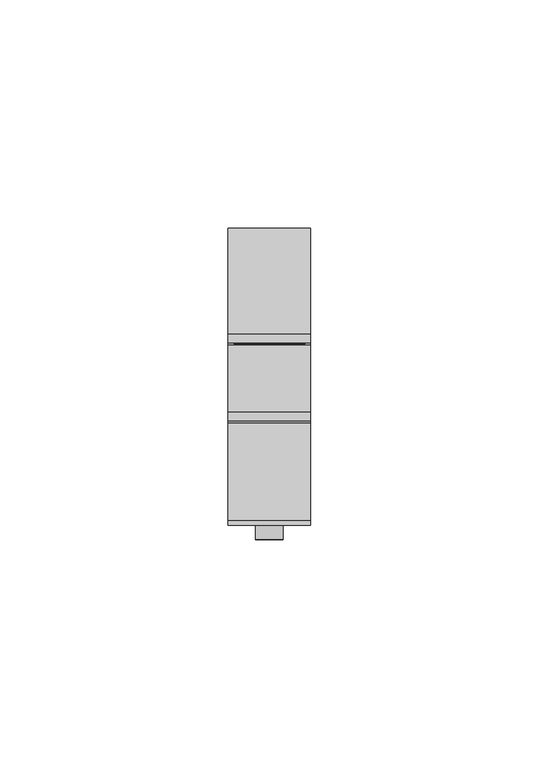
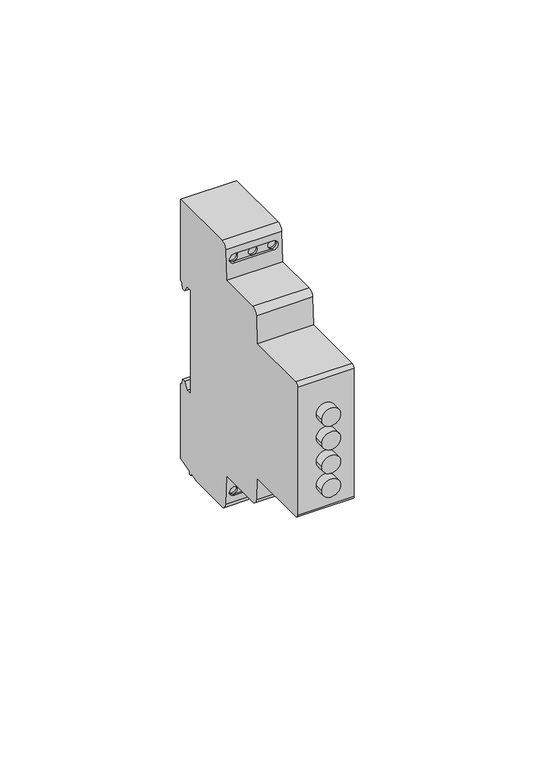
"""IFC4 building model written with IfcOpenShell, lengths in millimetres: proxy geometry, TDM_РЕЛЕ ВРЕМЕНИ НА DIN-РЕЙКУ СЕРИИ РВЦ : РВЦ 0.1с/100дн 8А 230 AC."""

import ifcopenshell
import ifcopenshell.guid

model = None  # the IFC model being written
_history = None  # IfcOwnerHistory: only IFC2X3 demands one
_inside = {}  # id of a spatial element -> (the spatial element, [elements in it])
_under = {}  # id of a project, library or spatial element -> (it, [spatial elements below it])
_declared = {}  # id of a project -> (the project, [libraries it declares])
_typed = {}  # id of a type object -> (the type object, [elements of that type])
_made_of = {}  # id of a material, layer set ... -> (it, [elements and type objects made of it])


def new_model(schema):
    """Start an empty IFC model of exactly this schema.

    Asked for "IFC4X3", IfcOpenShell would pick the latest addendum, in which some entities
    have other attributes; the version numbers below select the first issue.
    IFC2X3 requires an IfcOwnerHistory on every rooted entity: one is made here for all.
    """
    global model, _history
    if schema == "IFC4X3":
        model = ifcopenshell.file(schema_version=(4, 3, 0, 0))
    else:
        model = ifcopenshell.file(schema=schema)
    _inside.clear()
    _under.clear()
    _declared.clear()
    _typed.clear()
    _made_of.clear()
    _history = None
    if model.schema == "IFC2X3":
        org = make("IfcOrganization", Name="unknown")
        user = make(
            "IfcPersonAndOrganization",
            ThePerson=make("IfcPerson", FamilyName="unknown"),
            TheOrganization=org,
        )
        app = make(
            "IfcApplication",
            ApplicationDeveloper=org,
            Version="unknown",
            ApplicationFullName="unknown",
            ApplicationIdentifier="unknown",
        )
        _history = make(
            "IfcOwnerHistory",
            OwningUser=user,
            OwningApplication=app,
            ChangeAction="ADDED",
            CreationDate=0,
        )
    return model


def make(cls, **values):
    """One entity of the class cls with the attributes given. An attribute that is None is left unset."""
    return model.create_entity(
        cls, **{name: value for name, value in values.items() if value is not None}
    )


def rooted(cls, **values):
    """An entity with a GlobalId (a new one), such as an element, a storey or a relation."""
    return make(cls, GlobalId=ifcopenshell.guid.new(), OwnerHistory=_history, **values)


def si_unit(unit_type, name, prefix=None):
    """IfcSIUnit, for example si_unit("LENGTHUNIT", "METRE", prefix="MILLI")."""
    return make("IfcSIUnit", UnitType=unit_type, Prefix=prefix, Name=name)


def assignment(units):
    """IfcUnitAssignment: the units of a project."""
    return None if units is None else make("IfcUnitAssignment", Units=units)


def point(xyz):
    """IfcCartesianPoint."""
    return None if xyz is None else make("IfcCartesianPoint", Coordinates=xyz)


def direction(xyz):
    """IfcDirection."""
    return None if xyz is None else make("IfcDirection", DirectionRatios=xyz)


def frame(location, z_axis=None, x_axis=None):
    """IfcAxis2Placement3D, a coordinate frame: its origin and axes. An axis left out is left unset."""
    return make(
        "IfcAxis2Placement3D",
        Location=point(location),
        Axis=direction(z_axis),
        RefDirection=direction(x_axis),
    )


def frame_2d(location, x_axis=None):
    """IfcAxis2Placement2D, a coordinate frame in the plane: its origin and x axis."""
    return make(
        "IfcAxis2Placement2D", Location=point(location), RefDirection=direction(x_axis)
    )


def origin():
    """The frame at (0, 0, 0) with its axes left unset."""
    return frame((0.0, 0.0, 0.0))


def place(relative_to, where):
    """IfcLocalPlacement: puts the frame where relative to a parent placement (None: the world)."""
    return make(
        "IfcLocalPlacement", PlacementRelTo=relative_to, RelativePlacement=where
    )


def context(
    kind, dimensions, precision=None, world=None, true_north=None, identifier=None
):
    """IfcGeometricRepresentationContext, for example the 3D "Model" context."""
    return make(
        "IfcGeometricRepresentationContext",
        ContextIdentifier=identifier,
        ContextType=kind,
        CoordinateSpaceDimension=dimensions,
        Precision=precision,
        WorldCoordinateSystem=world,
        TrueNorth=true_north,
    )


def project(units=None, contexts=None):
    """IfcProject with its units and contexts."""
    return rooted(
        "IfcProject",
        Name="project",
        RepresentationContexts=contexts,
        UnitsInContext=assignment(units),
    )


def spatial(cls, under=None, at=None, **own):
    """A site, building, storey or space (cls), placed at a placement, below another one or the project."""
    s = rooted(cls, ObjectPlacement=at, **own)
    if under is not None:
        _under.setdefault(under.id(), (under, []))[1].append(s)
    return s


def polyline(points):
    """IfcPolyline through the points."""
    return make("IfcPolyline", Points=[point(p) for p in points])


def circle_curve(where, radius):
    """IfcCircle in the frame where."""
    return make("IfcCircle", Position=where, Radius=radius)


def ellipse_curve(where, semi_axis1, semi_axis2):
    """IfcEllipse in the frame where."""
    return make(
        "IfcEllipse", Position=where, SemiAxis1=semi_axis1, SemiAxis2=semi_axis2
    )


def trimmed(basis, trim1, trim2, sense, master):
    """IfcTrimmedCurve: the piece of a basis curve between two trims."""
    return make(
        "IfcTrimmedCurve",
        BasisCurve=basis,
        Trim1=trim1,
        Trim2=trim2,
        SenseAgreement=sense,
        MasterRepresentation=master,
    )


def segment(curve, same_sense, transition):
    """IfcCompositeCurveSegment."""
    return make(
        "IfcCompositeCurveSegment",
        Transition=transition,
        SameSense=same_sense,
        ParentCurve=curve,
    )


def composite_curve(segments, self_intersect=None):
    """IfcCompositeCurve: segments joined end to end."""
    return make("IfcCompositeCurve", Segments=segments, SelfIntersect=self_intersect)


def outline(outer, holes=None, kind="AREA"):
    """IfcArbitraryClosedProfileDef: a profile drawn as a closed curve; with holes, ...WithVoids."""
    if holes is None:
        return make("IfcArbitraryClosedProfileDef", ProfileType=kind, OuterCurve=outer)
    return make(
        "IfcArbitraryProfileDefWithVoids",
        ProfileType=kind,
        OuterCurve=outer,
        InnerCurves=holes,
    )


def extrude(swept, where, along, depth):
    """IfcExtrudedAreaSolid: the profile swept, set in the frame where, extruded along a direction by depth."""
    return make(
        "IfcExtrudedAreaSolid",
        SweptArea=swept,
        Position=where,
        ExtrudedDirection=direction(along),
        Depth=depth,
    )


def shape(context_of_items, identifier, shape_type, items):
    """IfcShapeRepresentation: the items that make up one representation, for example the "Body"."""
    return make(
        "IfcShapeRepresentation",
        ContextOfItems=context_of_items,
        RepresentationIdentifier=identifier,
        RepresentationType=shape_type,
        Items=items,
    )


def source(mapping_origin, context_of_items, identifier, shape_type, items):
    """IfcRepresentationMap: a shape defined once, which mapped items show again and again."""
    return make(
        "IfcRepresentationMap",
        MappingOrigin=mapping_origin,
        MappedRepresentation=shape(context_of_items, identifier, shape_type, items),
    )


def transform(
    local_origin,
    x_axis=None,
    y_axis=None,
    z_axis=None,
    scale=None,
    scale2=None,
    scale3=None,
    uniform=True,
):
    """IfcCartesianTransformationOperator3D, or its non-uniform kind. x_axis, y_axis, z_axis: its Axis1, 2, 3."""
    if uniform:
        return make(
            "IfcCartesianTransformationOperator3D",
            Axis1=direction(x_axis),
            Axis2=direction(y_axis),
            LocalOrigin=point(local_origin),
            Scale=scale,
            Axis3=direction(z_axis),
        )
    return make(
        "IfcCartesianTransformationOperator3DnonUniform",
        Axis1=direction(x_axis),
        Axis2=direction(y_axis),
        LocalOrigin=point(local_origin),
        Scale=scale,
        Axis3=direction(z_axis),
        Scale2=scale2,
        Scale3=scale3,
    )


def mapped(mapping_source, mapping_target):
    """IfcMappedItem: shows the shape of a source again, moved by a transform."""
    return make(
        "IfcMappedItem", MappingSource=mapping_source, MappingTarget=mapping_target
    )


def made_of(thing, what):
    """Note that an element or type object is made of a material, layer set ...; save() writes the relation."""
    if what is not None:
        _made_of.setdefault(what.id(), (what, []))[1].append(thing)
    return thing


def element(
    cls,
    number,
    at=None,
    inside=None,
    cuts=None,
    type_object=None,
    material=None,
    context=None,
    identifier="Body",
    shape_type=None,
    held_by="IfcProductDefinitionShape",
    body=None,
    shapes=None,
    **own,
):
    """One element of the class cls, such as IfcWall. Its Tag is "e" and its number.

    at: its placement. inside: the storey or other place that contains it. cuts: it is an
    opening in that element (IfcRelVoidsElement). A single representation is given by context,
    identifier, shape_type and body (its items); several are given by shapes. held_by: the class
    of the entity that holds the representations. save() writes the other relations.
    """
    e = rooted(cls, Tag="e%d" % number, ObjectPlacement=at, **own)
    if body is not None:
        shapes = [shape(context, identifier, shape_type, body)]
    if shapes is not None:
        e.Representation = make(held_by, Representations=shapes)
    if inside is not None:
        _inside.setdefault(inside.id(), (inside, []))[1].append(e)
    if cuts is not None:
        rooted(
            "IfcRelVoidsElement", RelatingBuildingElement=cuts, RelatedOpeningElement=e
        )
    if type_object is not None:
        _typed.setdefault(type_object.id(), (type_object, []))[1].append(e)
    return made_of(e, material)


def aggregate(whole, parts):
    """IfcRelAggregates: a whole, such as a stair, and the parts it consists of."""
    return rooted("IfcRelAggregates", RelatingObject=whole, RelatedObjects=parts)


def save(model, path):
    """Write the relations noted so far, then the file.

    IfcRelAggregates (storeys below a building ...), IfcRelContainedInSpatialStructure (elements
    in a storey), IfcRelDefinesByType, IfcRelAssociatesMaterial and IfcRelDeclares: one each for
    every whole, place, type object, material and project.
    """
    for whole, parts in _under.values():
        aggregate(whole, parts)
    for where, things in _inside.values():
        rooted(
            "IfcRelContainedInSpatialStructure",
            RelatedElements=things,
            RelatingStructure=where,
        )
    for kind, things in _typed.values():
        rooted("IfcRelDefinesByType", RelatedObjects=things, RelatingType=kind)
    for what, things in _made_of.values():
        rooted("IfcRelAssociatesMaterial", RelatedObjects=things, RelatingMaterial=what)
    for by, libraries in _declared.values():
        rooted("IfcRelDeclares", RelatingContext=by, RelatedDefinitions=libraries)
    model.write(path)


def plane_surface(at):
    """IfcPlane: the flat surface through the origin of the frame at, square to its z axis."""
    return make("IfcPlane", Position=at)


def cylinder_surface(at, radius):
    """IfcCylindricalSurface: all points at the distance radius from the z axis of the frame at."""
    return make("IfcCylindricalSurface", Position=at, Radius=radius)


def revolved_surface(curve, axis_point, axis_direction):
    """IfcSurfaceOfRevolution: the curve turned about the line through axis_point along axis_direction."""
    return make(
        "IfcSurfaceOfRevolution",
        SweptCurve=make("IfcArbitraryOpenProfileDef", ProfileType="CURVE", Curve=curve),
        AxisPosition=make("IfcAxis1Placement", Location=point(axis_point), Axis=direction(axis_direction)),
    )


def advanced_brep(points, edges, surfaces, faces):
    """IfcAdvancedBrep: a solid bounded by faces that lie on surfaces and meet in shared edges.

    An edge is (start, end): straight between two places in points (the first is 0);
    or (start, end, curve); or (start, end, curve, False) where it runs against its curve.
    A face is (place in surfaces, loops), or (place, loops, False) where it looks against
    its surface's normal. A loop lists edges by number (the first is 1), with a minus sign
    where the edge is run from its end to its start. The first loop is the outer one.
    """
    corners = [point(p) for p in points]
    vertices = [make("IfcVertexPoint", VertexGeometry=c) for c in corners]
    made = []
    for start, end, *more in edges:
        made.append(
            make(
                "IfcEdgeCurve",
                EdgeStart=vertices[start],
                EdgeEnd=vertices[end],
                EdgeGeometry=more[0] if more else make("IfcPolyline", Points=[corners[start], corners[end]]),
                SameSense=more[1] if len(more) > 1 else True,
            )
        )
    hull = []
    for where, loops, *sense in faces:
        bounds = []
        for j, loop in enumerate(loops):
            ring = [make("IfcOrientedEdge", EdgeElement=made[abs(k) - 1], Orientation=k > 0) for k in loop]
            bounds.append(
                make(
                    "IfcFaceOuterBound" if j == 0 else "IfcFaceBound",
                    Bound=make("IfcEdgeLoop", EdgeList=ring),
                    Orientation=True,
                )
            )
        hull.append(make("IfcAdvancedFace", Bounds=bounds, FaceSurface=surfaces[where], SameSense=sense[0] if sense else True))
    return make("IfcAdvancedBrep", Outer=make("IfcClosedShell", CfsFaces=hull))


def electrical_equipment_bfa7a710(model_context):
    return source(origin(), model_context, "Body", "SolidModel", [
        extrude(outline(composite_curve([segment(trimmed(circle_curve(frame_2d((9.4993959, 0.0)), 3.0), [point((9.4993959, -3.0))], [point((9.4993959, 3.0))], False, "CARTESIAN"), True, "CONTINUOUS"), segment(trimmed(circle_curve(frame_2d((9.4993959, 0.0)), 3.0), [point((9.4993959, 3.0))], [point((9.4993959, -3.0))], False, "CARTESIAN"), True, "CONTINUOUS")], self_intersect=False)), frame((0.0, -30.5593993, 0.0), z_axis=(0.0, 1.0, 0.0), x_axis=(0.0, 0.0, 1.0)), (0.0, 0.0, 1.0), 3.0593993),
        extrude(outline(composite_curve([segment(trimmed(circle_curve(frame_2d((1.4993959, 0.0)), 3.0), [point((1.4993959, -3.0))], [point((1.4993959, 3.0))], False, "CARTESIAN"), True, "CONTINUOUS"), segment(trimmed(circle_curve(frame_2d((1.4993959, 0.0)), 3.0), [point((1.4993959, 3.0))], [point((1.4993959, -3.0))], False, "CARTESIAN"), True, "CONTINUOUS")], self_intersect=False)), frame((0.0, -30.5593993, 0.0), z_axis=(0.0, 1.0, 0.0), x_axis=(0.0, 0.0, 1.0)), (0.0, 0.0, 1.0), 3.0593993),
        extrude(outline(composite_curve([segment(trimmed(circle_curve(frame_2d((-6.5006041, 0.0)), 3.0), [point((-6.5006041, -3.0))], [point((-6.5006041, 3.0))], False, "CARTESIAN"), True, "CONTINUOUS"), segment(trimmed(circle_curve(frame_2d((-6.5006041, 0.0)), 3.0), [point((-6.5006041, 3.0))], [point((-6.5006041, -3.0))], False, "CARTESIAN"), True, "CONTINUOUS")], self_intersect=False)), frame((0.0, -30.5593993, 0.0), z_axis=(0.0, 1.0, 0.0), x_axis=(0.0, 0.0, 1.0)), (0.0, 0.0, 1.0), 3.0593993),
        extrude(outline(composite_curve([segment(trimmed(circle_curve(frame_2d((-14.5006041, 0.0)), 3.0), [point((-14.5006041, -3.0))], [point((-14.5006041, 3.0))], False, "CARTESIAN"), True, "CONTINUOUS"), segment(trimmed(circle_curve(frame_2d((-14.5006041, 0.0)), 3.0), [point((-14.5006041, 3.0))], [point((-14.5006041, -3.0))], False, "CARTESIAN"), True, "CONTINUOUS")], self_intersect=False)), frame((0.0, -30.5593993, 0.0), z_axis=(0.0, 1.0, 0.0), x_axis=(0.0, 0.0, 1.0)), (0.0, 0.0, 1.0), 3.0593993),
        extrude(outline(polyline([(7.75, 16.6821204), (7.75, 14.1138713), (-7.75, 14.1138713), (-7.75, 16.6821204), (7.75, 16.6821204)])), frame((0.0, 0.0, -44.0625), z_axis=(0.0, 0.0, 1.0), x_axis=(1.0, 0.0, 0.0)), (0.0, 0.0, 1.0), 87.8126081),
        advanced_brep(
        [(9.0, 31.7632568, 17.7057143), (9.0, 33.7632568, 17.7057143), (9.0, 35.0790621, 15.4266726), (9.0, 36.2042493, 15.4266726), (9.0, 36.5256071, 17.2491835), (9.0, 37.5, 17.8117495), (9.0, 37.5, 45.0), (9.0, 14.5, 45.0), (9.0, 12.5, 43.0), (9.0, 11.9790691, 33.0600462), (9.0, -2.6020709, 33.0600462), (9.0, -4.5993299, 31.1647181), (9.0, -5.0796325, 22.0), (9.0, -26.3777313, 22.0), (9.0, -27.5, 20.8777313), (9.0, -27.5, -22.3875602), (9.0, -26.3875602, -23.5), (9.0, -5.0010208, -23.5), (9.0, -4.5993299, -31.1647181), (9.0, -2.6020709, -33.0600462), (9.0, 11.9790691, -33.0600462), (9.0, 12.5, -43.0), (9.0, 14.5, -45.0), (9.0, 28.5548029, -45.0), (9.0, 31.6319498, -44.175481), (9.0, 31.6319498, -45.0), (9.0, 32.5, -45.0), (9.0, 32.5, -43.9428876), (9.0, 37.5, -42.6031417), (9.0, 37.5, -17.4003208), (9.0, 36.5256071, -16.8377548), (9.0, 36.2042493, -15.0152439), (9.0, 35.0790621, -15.0152439), (9.0, 33.7632568, -17.2942857), (9.0, 31.7632568, -17.2942857), (-9.0, 31.7632568, 17.7057143), (-9.0, 31.7632568, -17.2942857), (-9.0, 33.7632568, -17.2942857), (-9.0, 35.0790621, -15.0152439), (-9.0, 36.2042493, -15.0152439), (-9.0, 36.5256071, -16.8377548), (-9.0, 37.5, -17.4003208), (-9.0, 37.5, -42.6031417), (-9.0, 32.5, -43.9428876), (-9.0, 32.5, -45.0), (-9.0, 31.6319498, -45.0), (-9.0, 31.6319498, -44.175481), (-9.0, 28.5548029, -45.0), (-9.0, 14.5, -45.0), (-9.0, 12.5, -43.0), (-9.0, 11.9790691, -33.0600462), (-9.0, -2.6020709, -33.0600462), (-9.0, -4.5993299, -31.1647181), (-9.0, -5.0010208, -23.5), (-9.0, -26.3875602, -23.5), (-9.0, -27.5, -22.3875602), (-9.0, -27.5, 20.8777313), (-9.0, -26.3777313, 22.0), (-9.0, -5.0796325, 22.0), (-9.0, -4.5993299, 31.1647181), (-9.0, -2.6020709, 33.0600462), (-9.0, 11.9790691, 33.0600462), (-9.0, 12.5, 43.0), (-9.0, 14.5, 45.0), (-9.0, 37.5, 45.0), (-9.0, 37.5, 17.8117495), (-9.0, 36.5256071, 17.2491835), (-9.0, 36.2042493, 15.4266726), (-9.0, 35.0790621, 15.4266726), (-9.0, 33.7632568, 17.7057143), (6.25, 13.0378948, -37.8135116), (0.0239013, 13.0378948, -37.8135116), (1.5239013, 13.0378948, -39.3135116), (0.0239013, 13.0378948, -40.8135116), (6.25, 13.0378948, -40.8135116), (4.75, 13.0378948, -39.3135116), (-6.25, 13.0378948, -37.8135116), (-4.75, 13.0378948, -39.3135116), (-6.25, 13.0378948, -40.8135116), (-1.4760987, 13.0378948, -39.3135116), (6.25, 13.0378948, 40.8135116), (0.0239013, 13.0378948, 40.8135116), (1.5239013, 13.0378948, 39.3135116), (0.0239013, 13.0378948, 37.8135116), (6.25, 13.0378948, 37.8135116), (4.75, 13.0378948, 39.3135116), (-6.25, 13.0378948, 40.8135116), (-4.75, 13.0378948, 39.3135116), (-6.25, 13.0378948, 37.8135116), (-1.4760987, 13.0378948, 39.3135116), (6.25, 12.2281877, 37.8135116), (0.0239013, 12.2281877, 37.8135116), (-6.25, 12.2281877, 37.8135116), (-7.75, 12.3067993, 39.3135116), (-6.25, 12.385411, 40.8135116), (0.0239013, 12.385411, 40.8135116), (6.25, 12.385411, 40.8135116), (7.75, 12.3067993, 39.3135116), (0.0239013, 12.2281877, -37.8135116), (6.25, 12.2281877, -37.8135116), (7.75, 12.3067993, -39.3135116), (6.25, 12.385411, -40.8135116), (0.0239013, 12.385411, -40.8135116), (-6.25, 12.385411, -40.8135116), (-7.75, 12.3067993, -39.3135116), (-6.25, 12.2281877, -37.8135116), (-7.75, 13.0378948, -39.3135116), (7.75, 13.0378948, -39.3135116), (7.75, 13.0378948, 39.3135116), (-7.75, 13.0378948, 39.3135116), (-4.75, 15.2465164, -39.3135116), (-7.75, 15.2465164, -39.3135116), (1.5239013, 15.2465164, -39.3135116), (-1.4760987, 15.2465164, -39.3135116), (4.75, 15.2465164, -39.3135116), (7.75, 15.2465164, -39.3135116), (-4.75, 15.2465164, 39.3135116), (-7.75, 15.2465164, 39.3135116), (1.5239013, 15.2465164, 39.3135116), (-1.4760987, 15.2465164, 39.3135116), (4.75, 15.2465164, 39.3135116), (7.75, 15.2465164, 39.3135116)],
        [
            (0, 1),
            (1, 2),
            (2, 3),
            (3, 4),
            (4, 5),
            (5, 6),
            (6, 7),
            (7, 8, circle_curve(frame((9.0, 14.5, 43.0), z_axis=(1.0, 0.0, 0.0), x_axis=(0.0, -1.0, 0.0)), 2.0)),
            (8, 9),
            (9, 10),
            (10, 11, circle_curve(frame((9.0, -2.6020709, 31.0600462), z_axis=(1.0, 0.0, 0.0), x_axis=(0.0, -1.0, 0.0)), 2.0)),
            (11, 12),
            (12, 13),
            (13, 14, circle_curve(frame((9.0, -26.3777313, 20.8777313), z_axis=(1.0, 0.0, 0.0), x_axis=(0.0, -1.0, 0.0)), 1.1222687)),
            (14, 15),
            (15, 16, circle_curve(frame((9.0, -26.3875602, -22.3875602), z_axis=(1.0, 0.0, 0.0), x_axis=(0.0, -1.0, 0.0)), 1.1124398)),
            (16, 17),
            (17, 18),
            (18, 19, circle_curve(frame((9.0, -2.6020709, -31.0600462), z_axis=(1.0, 0.0, 0.0), x_axis=(0.0, -1.0, 0.0)), 2.0)),
            (19, 20),
            (20, 21),
            (21, 22, circle_curve(frame((9.0, 14.5, -43.0), z_axis=(1.0, 0.0, 0.0), x_axis=(0.0, -1.0, 0.0)), 2.0)),
            (22, 23),
            (23, 24),
            (24, 25),
            (25, 26),
            (26, 27),
            (27, 28),
            (28, 29),
            (29, 30),
            (30, 31),
            (31, 32),
            (32, 33),
            (33, 34),
            (34, 0),
            (35, 36),
            (36, 37),
            (37, 38),
            (38, 39),
            (39, 40),
            (40, 41),
            (41, 42),
            (42, 43),
            (43, 44),
            (44, 45),
            (45, 46),
            (46, 47),
            (47, 48),
            (48, 49, circle_curve(frame((-9.0, 14.5, -43.0), z_axis=(-1.0, 0.0, 0.0), x_axis=(0.0, -1.0, 0.0)), 2.0)),
            (49, 50),
            (50, 51),
            (51, 52, circle_curve(frame((-9.0, -2.6020709, -31.0600462), z_axis=(-1.0, 0.0, 0.0), x_axis=(0.0, -1.0, 0.0)), 2.0)),
            (52, 53),
            (53, 54),
            (54, 55, circle_curve(frame((-9.0, -26.3875602, -22.3875602), z_axis=(-1.0, 0.0, 0.0), x_axis=(0.0, -1.0, 0.0)), 1.1124398)),
            (55, 56),
            (56, 57, circle_curve(frame((-9.0, -26.3777313, 20.8777313), z_axis=(-1.0, 0.0, 0.0), x_axis=(0.0, -1.0, 0.0)), 1.1222687)),
            (57, 58),
            (58, 59),
            (59, 60, circle_curve(frame((-9.0, -2.6020709, 31.0600462), z_axis=(-1.0, 0.0, 0.0), x_axis=(0.0, -1.0, 0.0)), 2.0)),
            (60, 61),
            (61, 62),
            (62, 63, circle_curve(frame((-9.0, 14.5, 43.0), z_axis=(-1.0, 0.0, 0.0), x_axis=(0.0, -1.0, 0.0)), 2.0)),
            (63, 64),
            (64, 65),
            (65, 66),
            (66, 67),
            (67, 68),
            (68, 69),
            (69, 35),
            (70, 71),
            (71, 72, circle_curve(frame((0.0239013, 13.0378948, -39.3135116), z_axis=(0.0, 1.0, 0.0), x_axis=(-1.0, 0.0, 0.0)), 1.5)),
            (72, 73, circle_curve(frame((0.0239013, 13.0378948, -39.3135116), z_axis=(0.0, 1.0, 0.0), x_axis=(-1.0, 0.0, 0.0)), 1.5)),
            (73, 74),
            (74, 75, circle_curve(frame((6.25, 13.0378948, -39.3135116), z_axis=(0.0, 1.0, 0.0), x_axis=(1.0, 0.0, 0.0)), 1.5)),
            (75, 70, circle_curve(frame((6.25, 13.0378948, -39.3135116), z_axis=(0.0, 1.0, 0.0), x_axis=(1.0, 0.0, 0.0)), 1.5)),
            (71, 76),
            (76, 77, circle_curve(frame((-6.25, 13.0378948, -39.3135116), z_axis=(0.0, 1.0, 0.0), x_axis=(-1.0, 0.0, 0.0)), 1.5)),
            (77, 78, circle_curve(frame((-6.25, 13.0378948, -39.3135116), z_axis=(0.0, 1.0, 0.0), x_axis=(-1.0, 0.0, 0.0)), 1.5)),
            (78, 73),
            (73, 79, circle_curve(frame((0.0239013, 13.0378948, -39.3135116), z_axis=(0.0, 1.0, 0.0), x_axis=(-1.0, 0.0, 0.0)), 1.5)),
            (79, 71, circle_curve(frame((0.0239013, 13.0378948, -39.3135116), z_axis=(0.0, 1.0, 0.0), x_axis=(-1.0, 0.0, 0.0)), 1.5)),
            (80, 81),
            (81, 82, circle_curve(frame((0.0239013, 13.0378948, 39.3135116), z_axis=(0.0, 1.0, 0.0), x_axis=(-1.0, 0.0, 0.0)), 1.5)),
            (82, 83, circle_curve(frame((0.0239013, 13.0378948, 39.3135116), z_axis=(0.0, 1.0, 0.0), x_axis=(-1.0, 0.0, 0.0)), 1.5)),
            (83, 84),
            (84, 85, circle_curve(frame((6.25, 13.0378948, 39.3135116), z_axis=(0.0, 1.0, 0.0), x_axis=(1.0, 0.0, 0.0)), 1.5)),
            (85, 80, circle_curve(frame((6.25, 13.0378948, 39.3135116), z_axis=(0.0, 1.0, 0.0), x_axis=(1.0, 0.0, 0.0)), 1.5)),
            (81, 86),
            (86, 87, circle_curve(frame((-6.25, 13.0378948, 39.3135116), z_axis=(0.0, 1.0, 0.0), x_axis=(-1.0, 0.0, 0.0)), 1.5)),
            (87, 88, circle_curve(frame((-6.25, 13.0378948, 39.3135116), z_axis=(0.0, 1.0, 0.0), x_axis=(-1.0, 0.0, 0.0)), 1.5)),
            (88, 83),
            (83, 89, circle_curve(frame((0.0239013, 13.0378948, 39.3135116), z_axis=(0.0, 1.0, 0.0), x_axis=(-1.0, 0.0, 0.0)), 1.5)),
            (89, 81, circle_curve(frame((0.0239013, 13.0378948, 39.3135116), z_axis=(0.0, 1.0, 0.0), x_axis=(-1.0, 0.0, 0.0)), 1.5)),
            (0, 35),
            (69, 1),
            (68, 2),
            (67, 3),
            (66, 4),
            (65, 5),
            (64, 6),
            (63, 7),
            (62, 8),
            (61, 9),
            (90, 91),
            (91, 92),
            (92, 93, ellipse_curve(frame((-6.25, 12.3067993, 39.3135116), z_axis=(0.0, 0.9986295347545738, -0.052335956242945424), x_axis=(0.0, -0.052335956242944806, -0.9986295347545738)), 1.5020585, 1.5)),
            (93, 94, ellipse_curve(frame((-6.25, 12.3067993, 39.3135116), z_axis=(0.0, 0.9986295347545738, -0.052335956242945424), x_axis=(0.0, -0.052335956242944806, -0.9986295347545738)), 1.5020585, 1.5)),
            (94, 95),
            (95, 96),
            (96, 97, ellipse_curve(frame((6.25, 12.3067993, 39.3135116), z_axis=(0.0, 0.9986295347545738, -0.052335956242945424), x_axis=(0.0, -0.052335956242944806, -0.9986295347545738)), 1.5020585, 1.5)),
            (97, 90, ellipse_curve(frame((6.25, 12.3067993, 39.3135116), z_axis=(0.0, 0.9986295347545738, -0.052335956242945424), x_axis=(0.0, -0.052335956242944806, -0.9986295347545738)), 1.5020585, 1.5)),
            (60, 10),
            (59, 11),
            (58, 12),
            (57, 13),
            (56, 14),
            (55, 15),
            (16, 54),
            (53, 17),
            (52, 18),
            (51, 19),
            (50, 20),
            (49, 21),
            (98, 99),
            (99, 100, ellipse_curve(frame((6.25, 12.3067993, -39.3135116), z_axis=(0.0, 0.9986295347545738, 0.05233595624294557), x_axis=(0.0, -0.05233595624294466, 0.9986295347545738)), 1.5020585, 1.5)),
            (100, 101, ellipse_curve(frame((6.25, 12.3067993, -39.3135116), z_axis=(0.0, 0.9986295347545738, 0.05233595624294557), x_axis=(0.0, -0.05233595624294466, 0.9986295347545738)), 1.5020585, 1.5)),
            (101, 102),
            (102, 103),
            (103, 104, ellipse_curve(frame((-6.25, 12.3067993, -39.3135116), z_axis=(0.0, 0.9986295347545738, 0.05233595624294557), x_axis=(0.0, -0.05233595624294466, 0.9986295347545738)), 1.5020585, 1.5)),
            (104, 105, ellipse_curve(frame((-6.25, 12.3067993, -39.3135116), z_axis=(0.0, 0.9986295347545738, 0.05233595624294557), x_axis=(0.0, -0.05233595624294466, 0.9986295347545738)), 1.5020585, 1.5)),
            (105, 98),
            (48, 22),
            (47, 23),
            (25, 45),
            (44, 26),
            (43, 27),
            (46, 24),
            (28, 42),
            (41, 29),
            (40, 30),
            (39, 31),
            (38, 32),
            (37, 33),
            (36, 34),
            (70, 99),
            (105, 76),
            (103, 78),
            (78, 106, circle_curve(frame((-6.25, 13.0378948, -39.3135116), z_axis=(0.0, 1.0, 0.0), x_axis=(-1.0, 0.0, 0.0)), 1.5)),
            (106, 76, circle_curve(frame((-6.25, 13.0378948, -39.3135116), z_axis=(0.0, 1.0, 0.0), x_axis=(-1.0, 0.0, 0.0)), 1.5)),
            (101, 74),
            (70, 107, circle_curve(frame((6.25, 13.0378948, -39.3135116), z_axis=(0.0, 1.0, 0.0), x_axis=(1.0, 0.0, 0.0)), 1.5)),
            (107, 74, circle_curve(frame((6.25, 13.0378948, -39.3135116), z_axis=(0.0, 1.0, 0.0), x_axis=(1.0, 0.0, 0.0)), 1.5)),
            (84, 90),
            (96, 80),
            (80, 108, circle_curve(frame((6.25, 13.0378948, 39.3135116), z_axis=(0.0, 1.0, 0.0), x_axis=(1.0, 0.0, 0.0)), 1.5)),
            (108, 84, circle_curve(frame((6.25, 13.0378948, 39.3135116), z_axis=(0.0, 1.0, 0.0), x_axis=(1.0, 0.0, 0.0)), 1.5)),
            (94, 86),
            (92, 88),
            (88, 109, circle_curve(frame((-6.25, 13.0378948, 39.3135116), z_axis=(0.0, 1.0, 0.0), x_axis=(-1.0, 0.0, 0.0)), 1.5)),
            (109, 86, circle_curve(frame((-6.25, 13.0378948, 39.3135116), z_axis=(0.0, 1.0, 0.0), x_axis=(-1.0, 0.0, 0.0)), 1.5)),
            (110, 111, circle_curve(frame((-6.25, 15.2465164, -39.3135116), z_axis=(0.0, -1.0, 0.0), x_axis=(-1.0, 0.0, 0.0)), 1.5)),
            (111, 110, circle_curve(frame((-6.25, 15.2465164, -39.3135116), z_axis=(0.0, -1.0, 0.0), x_axis=(-1.0, 0.0, 0.0)), 1.5)),
            (112, 113, circle_curve(frame((0.0239013, 15.2465164, -39.3135116), z_axis=(0.0, -1.0, 0.0), x_axis=(-1.0, 0.0, 0.0)), 1.5)),
            (113, 112, circle_curve(frame((0.0239013, 15.2465164, -39.3135116), z_axis=(0.0, -1.0, 0.0), x_axis=(-1.0, 0.0, 0.0)), 1.5)),
            (114, 115, circle_curve(frame((6.25, 15.2465164, -39.3135116), z_axis=(0.0, -1.0, 0.0), x_axis=(1.0, 0.0, 0.0)), 1.5)),
            (115, 114, circle_curve(frame((6.25, 15.2465164, -39.3135116), z_axis=(0.0, -1.0, 0.0), x_axis=(1.0, 0.0, 0.0)), 1.5)),
            (116, 117, circle_curve(frame((-6.25, 15.2465164, 39.3135116), z_axis=(0.0, -1.0, 0.0), x_axis=(-1.0, 0.0, 0.0)), 1.5)),
            (117, 116, circle_curve(frame((-6.25, 15.2465164, 39.3135116), z_axis=(0.0, -1.0, 0.0), x_axis=(-1.0, 0.0, 0.0)), 1.5)),
            (118, 119, circle_curve(frame((0.0239013, 15.2465164, 39.3135116), z_axis=(0.0, -1.0, 0.0), x_axis=(-1.0, 0.0, 0.0)), 1.5)),
            (119, 118, circle_curve(frame((0.0239013, 15.2465164, 39.3135116), z_axis=(0.0, -1.0, 0.0), x_axis=(-1.0, 0.0, 0.0)), 1.5)),
            (120, 121, circle_curve(frame((6.25, 15.2465164, 39.3135116), z_axis=(0.0, -1.0, 0.0), x_axis=(1.0, 0.0, 0.0)), 1.5)),
            (121, 120, circle_curve(frame((6.25, 15.2465164, 39.3135116), z_axis=(0.0, -1.0, 0.0), x_axis=(1.0, 0.0, 0.0)), 1.5)),
            (110, 77),
            (106, 111),
            (112, 72),
            (79, 113),
            (114, 75),
            (107, 115),
            (116, 87),
            (109, 117),
            (118, 82),
            (89, 119),
            (120, 85),
            (108, 121),
        ],
        [
            plane_surface(frame((9.0, 31.7632568, 17.7057143), z_axis=(1.0, 0.0, 0.0), x_axis=(0.0, 1.0, 0.0))),
            plane_surface(frame((-9.0, 31.7632568, 17.7057143), z_axis=(-1.0, 0.0, 0.0), x_axis=(0.0, -1.0, 0.0))),
            plane_surface(frame((-7.75, 13.0378948, -37.8135116), z_axis=(0.0, -1.0, 0.0), x_axis=(1.0, 0.0, 0.0))),
            plane_surface(frame((9.0, 31.7632568, 17.7057143), z_axis=(0.0, 0.0, -1.0), x_axis=(-1.0, 0.0, 0.0))),
            plane_surface(frame((9.0, 33.7632568, 17.7057143), z_axis=(0.0, -0.8660254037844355, -0.5000000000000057), x_axis=(-1.0, 0.0, 0.0))),
            plane_surface(frame((9.0, 35.0790621, 15.4266726), z_axis=(0.0, 0.0, -1.0), x_axis=(-1.0, 0.0, 0.0))),
            plane_surface(frame((9.0, 36.2042493, 15.4266726), z_axis=(0.0, 0.984807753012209, -0.17364817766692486), x_axis=(-1.0, 0.0, 0.0))),
            plane_surface(frame((9.0, 36.5256071, 17.2491835), z_axis=(0.0, 0.5000000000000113, -0.8660254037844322), x_axis=(-1.0, 0.0, 0.0))),
            plane_surface(frame((9.0, 37.5, 17.8117495), z_axis=(0.0, 1.0, 0.0), x_axis=(-1.0, 0.0, 0.0))),
            plane_surface(frame((9.0, 37.5, 45.0), z_axis=(0.0, 0.0, 1.0), x_axis=(-1.0, 0.0, 0.0))),
            cylinder_surface(frame((-9.0, 14.5, 43.0), z_axis=(1.0, 0.0, 0.0), x_axis=(0.0, -1.0, 0.0)), 2.0),
            plane_surface(frame((9.0, 12.5, 43.0), z_axis=(0.0, -0.9986295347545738, 0.052335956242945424), x_axis=(-1.0, 0.0, 0.0))),
            plane_surface(frame((9.0, 11.9790691, 33.0600462), z_axis=(0.0, 0.0, 1.0), x_axis=(-1.0, 0.0, 0.0))),
            cylinder_surface(frame((-9.0, -2.6020709, 31.0600462), z_axis=(1.0, 0.0, 0.0), x_axis=(0.0, -1.0, 0.0)), 2.0),
            plane_surface(frame((9.0, -4.5993299, 31.1647181), z_axis=(0.0, -0.9986295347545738, 0.052335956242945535), x_axis=(-1.0, 0.0, 0.0))),
            plane_surface(frame((9.0, -5.0796325, 22.0), z_axis=(0.0, 0.0, 1.0), x_axis=(-1.0, 0.0, 0.0))),
            cylinder_surface(frame((-9.0, -26.3777313, 20.8777313), z_axis=(1.0, 0.0, 0.0), x_axis=(0.0, -1.0, 0.0)), 1.1222687),
            plane_surface(frame((9.0, -27.5, 20.8777313), z_axis=(0.0, -1.0, 0.0), x_axis=(-1.0, 0.0, 0.0))),
            plane_surface(frame((9.0, -26.3875602, -23.5), z_axis=(0.0, 0.0, -1.0), x_axis=(-1.0, 0.0, 0.0))),
            plane_surface(frame((9.0, -5.0010208, -23.5), z_axis=(0.0, -0.9986295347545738, -0.05233595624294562), x_axis=(-1.0, 0.0, 0.0))),
            cylinder_surface(frame((-9.0, -2.6020709, -31.0600462), z_axis=(1.0, 0.0, 0.0), x_axis=(0.0, -1.0, 0.0)), 2.0),
            plane_surface(frame((9.0, -2.6020709, -33.0600462), z_axis=(0.0, 0.0, -1.0), x_axis=(-1.0, 0.0, 0.0))),
            plane_surface(frame((9.0, 11.9790691, -33.0600462), z_axis=(0.0, -0.9986295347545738, -0.05233595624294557), x_axis=(-1.0, 0.0, 0.0))),
            cylinder_surface(frame((-9.0, 14.5, -43.0), z_axis=(1.0, 0.0, 0.0), x_axis=(0.0, -1.0, 0.0)), 2.0),
            plane_surface(frame((9.0, 14.5, -45.0), z_axis=(0.0, 0.0, -1.0), x_axis=(-1.0, 0.0, 0.0))),
            plane_surface(frame((9.0, 31.6319498, -45.0), z_axis=(0.0, 0.0, -1.0), x_axis=(-1.0, 0.0, 0.0))),
            plane_surface(frame((9.0, 32.5, -45.0), z_axis=(0.0, 1.0, 0.0), x_axis=(-1.0, 0.0, 0.0))),
            plane_surface(frame((9.0, 28.5548029, -45.0), z_axis=(0.0, 0.2588190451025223, -0.965925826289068), x_axis=(-1.0, 0.0, 0.0))),
            plane_surface(frame((9.0, 37.5, -42.6031417), z_axis=(0.0, 1.0, 0.0), x_axis=(-1.0, 0.0, 0.0))),
            plane_surface(frame((9.0, 37.5, -17.4003208), z_axis=(0.0, 0.5000000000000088, 0.8660254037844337), x_axis=(-1.0, 0.0, 0.0))),
            plane_surface(frame((9.0, 36.5256071, -16.8377548), z_axis=(0.0, 0.9848077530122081, 0.17364817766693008), x_axis=(-1.0, 0.0, 0.0))),
            plane_surface(frame((9.0, 36.2042493, -15.0152439), z_axis=(0.0, 0.0, 1.0), x_axis=(-1.0, 0.0, 0.0))),
            plane_surface(frame((9.0, 35.0790621, -15.0152439), z_axis=(0.0, -0.8660254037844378, 0.5000000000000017), x_axis=(-1.0, 0.0, 0.0))),
            plane_surface(frame((9.0, 33.7632568, -17.2942857), z_axis=(0.0, 0.0, 1.0), x_axis=(-1.0, 0.0, 0.0))),
            plane_surface(frame((9.0, 31.7632568, -17.2942857), z_axis=(0.0, 1.0, 0.0), x_axis=(-1.0, 0.0, 0.0))),
            cylinder_surface(frame((-9.0, -26.3875602, -22.3875602), z_axis=(1.0, 0.0, 0.0), x_axis=(0.0, -1.0, 0.0)), 1.1124398),
            plane_surface(frame((6.25, 0.0, -37.8135116), z_axis=(0.0, 0.0, -1.0), x_axis=(0.0, 1.0, 0.0))),
            revolved_surface(polyline([(-7.75, 12.228187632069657, -39.3135116), (-7.75, 13.0378948, -39.3135116)]), (-6.25, 13.0378948, -39.3135116), (0.0, -1.0, 0.0)),
            plane_surface(frame((-6.25, 0.0, -40.8135116), z_axis=(0.0, 0.0, 1.0), x_axis=(0.0, 1.0, 0.0))),
            revolved_surface(polyline([(7.75, 12.228187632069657, -39.3135116), (7.75, 13.0378948, -39.3135116)]), (6.25, 13.0378948, -39.3135116), (0.0, -1.0, 0.0)),
            revolved_surface(polyline([(7.75, 12.228187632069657, 39.3135116), (7.75, 13.0378948, 39.3135116)]), (6.25, 0.0, 39.3135116), (0.0, -1.0, 0.0)),
            plane_surface(frame((6.25, 0.0, 40.8135116), z_axis=(0.0, 0.0, -1.0), x_axis=(0.0, 1.0, 0.0))),
            revolved_surface(polyline([(-7.75, 12.228187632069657, 39.3135116), (-7.75, 13.0378948, 39.3135116)]), (-6.25, 0.0, 39.3135116), (0.0, -1.0, 0.0)),
            plane_surface(frame((-6.25, 0.0, 37.8135116), z_axis=(0.0, 0.0, 1.0), x_axis=(0.0, 1.0, 0.0))),
            plane_surface(frame((-7.75, 15.2465164, -39.3135116), z_axis=(0.0, -1.0, 0.0), x_axis=(0.0, 0.0, 1.0))),
            revolved_surface(polyline([(-7.75, 13.0378948, -39.3135116), (-7.75, 15.2465164, -39.3135116)]), (-6.25, 15.2465164, -39.3135116), (0.0, -1.0, 0.0)),
            revolved_surface(polyline([(-1.4760987, 13.0378948, -39.3135116), (-1.4760987, 15.2465164, -39.3135116)]), (0.0239013, 0.0, -39.3135116), (0.0, -1.0, 0.0)),
            revolved_surface(polyline([(7.75, 13.0378948, -39.3135116), (7.75, 15.2465164, -39.3135116)]), (6.25, 0.0, -39.3135116), (0.0, -1.0, 0.0)),
            revolved_surface(polyline([(-7.75, 13.0378948, 39.3135116), (-7.75, 15.2465164, 39.3135116)]), (-6.25, 0.0, 39.3135116), (0.0, -1.0, 0.0)),
            revolved_surface(polyline([(-1.4760987, 13.0378948, 39.3135116), (-1.4760987, 15.2465164, 39.3135116)]), (0.0239013, 0.0, 39.3135116), (0.0, -1.0, 0.0)),
            revolved_surface(polyline([(7.75, 13.0378948, 39.3135116), (7.75, 15.2465164, 39.3135116)]), (6.25, 0.0, 39.3135116), (0.0, -1.0, 0.0)),
            plane_surface(frame((9.0, 31.6319498, -44.175481), z_axis=(0.0, -1.0, 0.0), x_axis=(-1.0, 0.0, 0.0))),
            plane_surface(frame((9.0, 32.5, -43.9428876), z_axis=(0.0, 0.2588190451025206, -0.9659258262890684), x_axis=(-1.0, 0.0, 0.0))),
        ],
        [
            (0, [[1, 2, 3, 4, 5, 6, 7, 8, 9, 10, 11, 12, 13, 14, 15, 16, 17, 18, 19, 20, 21, 22, 23, 24, 25, 26, 27, 28, 29, 30, 31, 32, 33, 34, 35]]),
            (1, [[36, 37, 38, 39, 40, 41, 42, 43, 44, 45, 46, 47, 48, 49, 50, 51, 52, 53, 54, 55, 56, 57, 58, 59, 60, 61, 62, 63, 64, 65, 66, 67, 68, 69, 70]]),
            (2, [[71, 72, 73, 74, 75, 76]]),
            (2, [[77, 78, 79, 80, 81, 82]]),
            (2, [[83, 84, 85, 86, 87, 88]]),
            (2, [[89, 90, 91, 92, 93, 94]]),
            (3, [[-1, 95, -70, 96]]),
            (4, [[-2, -96, -69, 97]]),
            (5, [[-3, -97, -68, 98]]),
            (6, [[-4, -98, -67, 99]]),
            (7, [[-5, -99, -66, 100]]),
            (8, [[-6, -100, -65, 101]]),
            (9, [[-7, -101, -64, 102]]),
            (10, [[-8, -102, -63, 103]]),
            (11, [[-9, -103, -62, 104], [105, 106, 107, 108, 109, 110, 111, 112]]),
            (12, [[-10, -104, -61, 113]]),
            (13, [[-11, -113, -60, 114]]),
            (14, [[-12, -114, -59, 115]]),
            (15, [[-13, -115, -58, 116]]),
            (16, [[-14, -116, -57, 117]]),
            (17, [[-15, -117, -56, 118]]),
            (18, [[-17, 119, -54, 120]]),
            (19, [[-18, -120, -53, 121]]),
            (20, [[-19, -121, -52, 122]]),
            (21, [[-20, -122, -51, 123]]),
            (22, [[-21, -123, -50, 124], [125, 126, 127, 128, 129, 130, 131, 132]]),
            (23, [[-22, -124, -49, 133]]),
            (24, [[-23, -133, -48, 134]]),
            (25, [[-26, 135, -45, 136]]),
            (26, [[-27, -136, -44, 137]]),
            (27, [[-24, -134, -47, 138]]),
            (28, [[-29, 139, -42, 140]]),
            (29, [[-30, -140, -41, 141]]),
            (30, [[-31, -141, -40, 142]]),
            (31, [[-32, -142, -39, 143]]),
            (32, [[-33, -143, -38, 144]]),
            (33, [[-34, -144, -37, 145]]),
            (34, [[-35, -145, -36, -95]]),
            (35, [[-16, -118, -55, -119]]),
            (36, [[146, -125, -132, 147, -77, -71]]),
            (37, [[-147, -131, -130, 148, 149, 150]]),
            (38, [[-148, -129, -128, 151, -74, -80]]),
            (39, [[-146, 152, 153, -151, -127, -126]]),
            (40, [[154, -112, -111, 155, 156, 157]]),
            (41, [[-155, -110, -109, 158, -89, -83]]),
            (42, [[-158, -108, -107, 159, 160, 161]]),
            (43, [[-154, -86, -92, -159, -106, -105]]),
            (44, [[162, 163]]),
            (44, [[164, 165]]),
            (44, [[166, 167]]),
            (44, [[168, 169]]),
            (44, [[170, 171]]),
            (44, [[172, 173]]),
            (45, [[-162, 174, -78, -150, 175]]),
            (45, [[-163, -175, -149, -79, -174]]),
            (46, [[-164, 176, -72, -82, 177]]),
            (46, [[-165, -177, -81, -73, -176]]),
            (47, [[-166, 178, -75, -153, 179]]),
            (47, [[-167, -179, -152, -76, -178]]),
            (48, [[-168, 180, -90, -161, 181]]),
            (48, [[-169, -181, -160, -91, -180]]),
            (49, [[-170, 182, -84, -94, 183]]),
            (49, [[-171, -183, -93, -85, -182]]),
            (50, [[-172, 184, -87, -157, 185]]),
            (50, [[-173, -185, -156, -88, -184]]),
            (51, [[-25, -138, -46, -135]]),
            (52, [[-28, -137, -43, -139]]),
        ],
    ),
    ])


if __name__ == "__main__":
    model = new_model("IFC4")
    model_context = context("Model", 3, world=origin())
    ifc_project = project(units=[si_unit("LENGTHUNIT", "METRE", prefix="MILLI")], contexts=[model_context])
    site = spatial("IfcSite", under=ifc_project)
    building = spatial("IfcBuilding", under=site)
    placement = place(None, origin())
    electrical_equipment_shape = electrical_equipment_bfa7a710(model_context)
    element("IfcBuildingElementProxy", 1, Name="TDM_РЕЛЕ ВРЕМЕНИ НА DIN-РЕЙКУ СЕРИИ РВЦ : РВЦ 0.1с/100дн 8А 230 AC", ObjectType="TDM_РЕЛЕ ВРЕМЕНИ НА DIN-РЕЙКУ СЕРИИ РВЦ : РВЦ 0.1с/100дн 8А 230 AC", at=placement, inside=building, context=model_context, shape_type="MappedRepresentation", body=[
        mapped(electrical_equipment_shape, transform((0.0, 0.0, 0.0), x_axis=(1.0, 0.0, 0.0), y_axis=(0.0, 1.0, 0.0), z_axis=(0.0, 0.0, 1.0))),
    ])
    save(model, "model.ifc")
